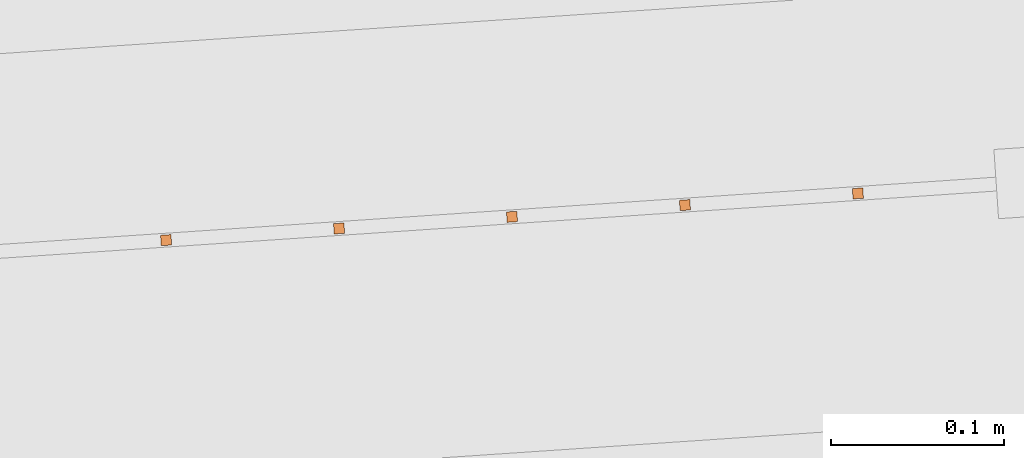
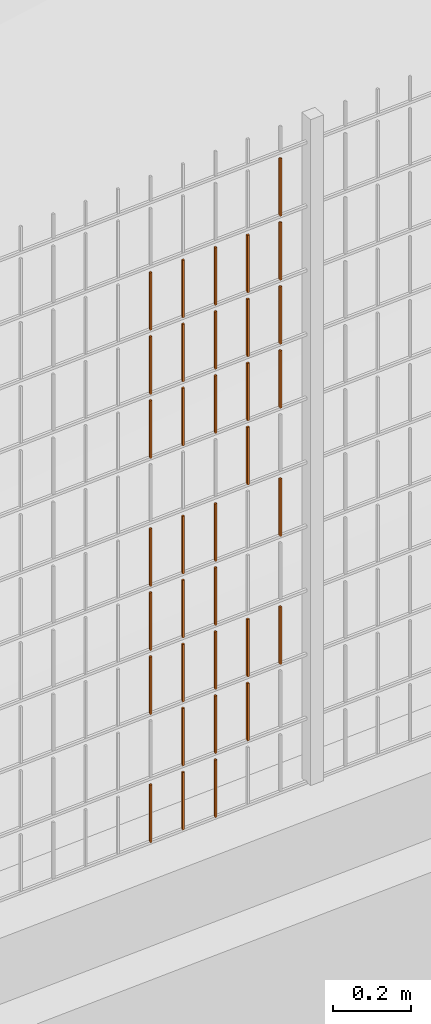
# One storey, part 146 of 1809: 35 proxies, 1 element without a shape of its own.
"""IFC2X3 building model written with IfcOpenShell, lengths in millimetres."""

from ifc_helpers import new_model, entity, si_unit, converted_unit, derived_unit, money_unit, direction, frame, origin_with_axes, place, context, subcontext, project, spatial, faceted_brep, source, transform, mapped, material, type_object, element, aggregate, save


model = new_model("IFC2X3")

# Units and contexts
model_context = context("Model", 3, precision=0.01, world=origin_with_axes(), true_north=direction((0.0, 1.0)))
body_context = subcontext(model_context, "Body", "Model", "MODEL_VIEW")
ifc_project = project(units=[si_unit("LENGTHUNIT", "METRE", prefix="MILLI"), si_unit("AREAUNIT", "SQUARE_METRE"), si_unit("VOLUMEUNIT", "CUBIC_METRE"), converted_unit("PLANEANGLEUNIT", "DEGREE", entity("IfcPlaneAngleMeasure", 0.0174532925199), si_unit("PLANEANGLEUNIT", "RADIAN"), dimensions=[0, 0, 0, 0, 0, 0, 0]), si_unit("SOLIDANGLEUNIT", "STERADIAN"), money_unit("EUR"), converted_unit("TIMEUNIT", "Year", entity("IfcTimeMeasure", 31556926.0), si_unit("TIMEUNIT", "SECOND"), dimensions=[0, 0, 1, 0, 0, 0, 0]), si_unit("MASSUNIT", "GRAM", prefix="KILO"), si_unit("THERMODYNAMICTEMPERATUREUNIT", "DEGREE_CELSIUS"), si_unit("LUMINOUSINTENSITYUNIT", "LUMEN"), si_unit("ENERGYUNIT", "JOULE", prefix="MEGA"), derived_unit("THERMALCONDUCTANCEUNIT", [(si_unit("POWERUNIT", "WATT"), 1), (si_unit("LENGTHUNIT", "METRE"), -1), (si_unit("THERMODYNAMICTEMPERATUREUNIT", "KELVIN"), -1)]), derived_unit("SPECIFICHEATCAPACITYUNIT", [(si_unit("ENERGYUNIT", "JOULE"), 1), (si_unit("MASSUNIT", "GRAM", prefix="KILO"), -1), (si_unit("THERMODYNAMICTEMPERATUREUNIT", "KELVIN"), -1)]), derived_unit("MASSDENSITYUNIT", [(si_unit("MASSUNIT", "GRAM", prefix="KILO"), 1), (si_unit("VOLUMEUNIT", "CUBIC_METRE"), -1)])], contexts=[model_context])

# Site, building, storey
site_placement = place(None, origin_with_axes())
site = spatial("IfcSite", under=ifc_project, at=site_placement, Name="Politse- ja Piirivalveameti ning Päästeameti ühishoone", CompositionType="ELEMENT")
building_placement = place(site_placement, origin_with_axes())
building = spatial("IfcBuilding", under=site, at=building_placement, Name="Politse- ja Piirivalveameti ning Päästeameti ühishoone", CompositionType="ELEMENT")
storey_placement = place(building_placement, origin_with_axes())
storey = spatial("IfcBuildingStorey", under=building, at=storey_placement, Name="Esimene korrus", CompositionType="ELEMENT", Elevation=0.0)

# Proxies
building_element_proxy_type_1 = type_object("IfcBuildingElementProxyType", Name="Railing Type", PredefinedType="NOTDEFINED")
proxy_1_placement = place(storey_placement, frame((89252.001212, -29183.4766571, 203.661247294), z_axis=(0.0, 0.0, 1.0), x_axis=(1.0, 0.0, 0.0)))
proxy_1 = element("IfcBuildingElementProxy", 1, at=proxy_1_placement, inside=storey, type_object=building_element_proxy_type_1, Name="PIIRDEAED")
ifc_material = material(Name="ET-03_Raud")
building_element_proxy_type_2 = type_object("IfcBuildingElementProxyType", Name="IfcBuildingElementProxy", PredefinedType="NOTDEFINED")
shared_shape_1 = source(origin_with_axes(), body_context, "Body", "Brep", [
    faceted_brep([(3.0, 3.0, -0.000752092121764), (-3.0, 3.0, -0.000752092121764), (-3.0, 3.0, 179.99926046), (3.0, 3.0, 179.99926046), (3.0, -3.0, 0.000752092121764), (-3.0, -3.0, 0.000752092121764), (-3.0, -3.0, 180.000764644), (3.0, -3.0, 180.000764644)], [[[0, 1, 2, 3]], [[0, 4, 5, 1]], [[1, 5, 6, 2]], [[3, 2, 6, 7]], [[4, 0, 3, 7]], [[5, 4, 7, 6]]]),
])
proxy_2_placement = place(proxy_1_placement, frame((-84733.609712, -23021.2103245, 1205.94348786), z_axis=(0.0, 0.0, 1.0), x_axis=(1.0, 0.0, 0.0)))
proxy_2 = element("IfcBuildingElementProxy", 2, at=proxy_2_placement, type_object=building_element_proxy_type_2, material=ifc_material, Name="BALUSTER - 001", context=body_context, shape_type="MappedRepresentation", body=[
    mapped(shared_shape_1, transform((0.0, 0.0, 0.0), x_axis=(-0.0673926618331, 0.997726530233, 0.0), y_axis=(-0.997726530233, -0.0673926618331, 0.0), z_axis=(0.0, 0.0, 1.0))),
])
shared_shape_2 = source(origin_with_axes(), body_context, "Body", "Brep", [
    faceted_brep([(3.0, 3.0, -0.000752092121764), (-3.0, 3.0, -0.000752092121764), (-3.0, 3.0, 179.99926046), (3.0, 3.0, 179.99926046), (3.0, -3.0, 0.000752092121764), (-3.0, -3.0, 0.000752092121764), (-3.0, -3.0, 180.000764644), (3.0, -3.0, 180.000764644)], [[[0, 1, 2, 3]], [[0, 4, 5, 1]], [[1, 5, 6, 2]], [[3, 2, 6, 7]], [[4, 0, 3, 7]], [[5, 4, 7, 6]]]),
])
proxy_3_placement = place(proxy_1_placement, frame((-84733.609712, -23021.2103245, 1405.94348786), z_axis=(0.0, 0.0, 1.0), x_axis=(1.0, 0.0, 0.0)))
proxy_3 = element("IfcBuildingElementProxy", 3, at=proxy_3_placement, type_object=building_element_proxy_type_2, material=ifc_material, Name="BALUSTER - 001", context=body_context, shape_type="MappedRepresentation", body=[
    mapped(shared_shape_2, transform((0.0, 0.0, 0.0), x_axis=(-0.0673926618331, 0.997726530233, 0.0), y_axis=(-0.997726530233, -0.0673926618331, 0.0), z_axis=(0.0, 0.0, 1.0))),
])
proxy_4_placement = place(proxy_1_placement, frame((-84733.609712, -23021.2103245, 1605.94348786), z_axis=(0.0, 0.0, 1.0), x_axis=(1.0, 0.0, 0.0)))
proxy_4 = element("IfcBuildingElementProxy", 4, at=proxy_4_placement, type_object=building_element_proxy_type_2, material=ifc_material, Name="BALUSTER - 001", context=body_context, shape_type="MappedRepresentation", body=[
    mapped(shared_shape_2, transform((0.0, 0.0, 0.0), x_axis=(-0.0673926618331, 0.997726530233, 0.0), y_axis=(-0.997726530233, -0.0673926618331, 0.0), z_axis=(0.0, 0.0, 1.0))),
])
shared_shape_3 = source(origin_with_axes(), body_context, "Body", "Brep", [
    faceted_brep([(3.0, 3.0, -0.000752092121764), (-3.0, 3.0, -0.000752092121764), (-3.0, 3.0, 179.99926046), (3.0, 3.0, 179.99926046), (3.0, -3.0, 0.000752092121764), (-3.0, -3.0, 0.000752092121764), (-3.0, -3.0, 180.000764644), (3.0, -3.0, 180.000764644)], [[[0, 1, 2, 3]], [[0, 4, 5, 1]], [[1, 5, 6, 2]], [[3, 2, 6, 7]], [[4, 0, 3, 7]], [[5, 4, 7, 6]]]),
])
proxy_5_placement = place(proxy_1_placement, frame((-84933.155018, -23034.6888569, 205.893348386), z_axis=(0.0, 0.0, 1.0), x_axis=(1.0, 0.0, 0.0)))
proxy_5 = element("IfcBuildingElementProxy", 5, at=proxy_5_placement, type_object=building_element_proxy_type_2, material=ifc_material, Name="BALUSTER - 001", context=body_context, shape_type="MappedRepresentation", body=[
    mapped(shared_shape_3, transform((0.0, 0.0, 0.0), x_axis=(-0.0673926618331, 0.997726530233, 0.0), y_axis=(-0.997726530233, -0.0673926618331, 0.0), z_axis=(0.0, 0.0, 1.0))),
])
proxy_6_placement = place(proxy_1_placement, frame((-84933.155018, -23034.6888569, 605.893348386), z_axis=(0.0, 0.0, 1.0), x_axis=(1.0, 0.0, 0.0)))
proxy_6 = element("IfcBuildingElementProxy", 6, at=proxy_6_placement, type_object=building_element_proxy_type_2, material=ifc_material, Name="BALUSTER - 001", context=body_context, shape_type="MappedRepresentation", body=[
    mapped(shared_shape_3, transform((0.0, 0.0, 0.0), x_axis=(-0.0673926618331, 0.997726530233, 0.0), y_axis=(-0.997726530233, -0.0673926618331, 0.0), z_axis=(0.0, 0.0, 1.0))),
])
shared_shape_4 = source(origin_with_axes(), body_context, "Body", "Brep", [
    faceted_brep([(3.0, 3.0, -0.000752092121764), (-3.0, 3.0, -0.000752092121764), (-3.0, 3.0, 179.99926046), (3.0, 3.0, 179.99926046), (3.0, -3.0, 0.000752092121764), (-3.0, -3.0, 0.000752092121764), (-3.0, -3.0, 180.000764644), (3.0, -3.0, 180.000764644)], [[[0, 1, 2, 3]], [[0, 4, 5, 1]], [[1, 5, 6, 2]], [[3, 2, 6, 7]], [[4, 0, 3, 7]], [[5, 4, 7, 6]]]),
])
proxy_7_placement = place(proxy_1_placement, frame((-85032.927671, -23041.4281231, 5.86827864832), z_axis=(0.0, 0.0, 1.0), x_axis=(1.0, 0.0, 0.0)))
proxy_7 = element("IfcBuildingElementProxy", 7, at=proxy_7_placement, type_object=building_element_proxy_type_2, material=ifc_material, Name="BALUSTER - 001", context=body_context, shape_type="MappedRepresentation", body=[
    mapped(shared_shape_4, transform((0.0, 0.0, 0.0), x_axis=(-0.0673926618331, 0.997726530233, 0.0), y_axis=(-0.997726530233, -0.0673926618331, 0.0), z_axis=(0.0, 0.0, 1.0))),
])
shared_shape_5 = source(origin_with_axes(), body_context, "Body", "Brep", [
    faceted_brep([(3.0, 3.0, -0.000752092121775), (-3.0, 3.0, -0.000752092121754), (-3.0, 3.0, 179.99926046), (3.0, 3.0, 179.99926046), (3.0, -3.0, 0.000752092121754), (-3.0, -3.0, 0.000752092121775), (-3.0, -3.0, 180.000764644), (3.0, -3.0, 180.000764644)], [[[0, 1, 2, 3]], [[0, 4, 5, 1]], [[1, 5, 6, 2]], [[3, 2, 6, 7]], [[4, 0, 3, 7]], [[5, 4, 7, 6]]]),
])
proxy_8_placement = place(proxy_1_placement, frame((-84833.382365, -23027.9495907, 405.918418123), z_axis=(0.0, 0.0, 1.0), x_axis=(1.0, 0.0, 0.0)))
proxy_8 = element("IfcBuildingElementProxy", 8, at=proxy_8_placement, type_object=building_element_proxy_type_2, material=ifc_material, Name="BALUSTER - 001", context=body_context, shape_type="MappedRepresentation", body=[
    mapped(shared_shape_5, transform((0.0, 0.0, 0.0), x_axis=(-0.0673926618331, 0.997726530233, 0.0), y_axis=(-0.997726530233, -0.0673926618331, 0.0), z_axis=(0.0, 0.0, 1.0))),
])
shared_shape_6 = source(origin_with_axes(), body_context, "Body", "Brep", [
    faceted_brep([(3.0, 3.0, -0.000752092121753), (-3.0, 3.0, -0.000752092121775), (-3.0, 3.0, 179.99926046), (3.0, 3.0, 179.99926046), (3.0, -3.0, 0.000752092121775), (-3.0, -3.0, 0.000752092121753), (-3.0, -3.0, 180.000764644), (3.0, -3.0, 180.000764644)], [[[0, 1, 2, 3]], [[0, 4, 5, 1]], [[1, 5, 6, 2]], [[3, 2, 6, 7]], [[4, 0, 3, 7]], [[5, 4, 7, 6]]]),
])
proxy_9_placement = place(proxy_1_placement, frame((-85132.7003241, -23048.1673893, 5.84320891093), z_axis=(0.0, 0.0, 1.0), x_axis=(1.0, 0.0, 0.0)))
proxy_9 = element("IfcBuildingElementProxy", 9, at=proxy_9_placement, type_object=building_element_proxy_type_2, material=ifc_material, Name="BALUSTER - 001", context=body_context, shape_type="MappedRepresentation", body=[
    mapped(shared_shape_6, transform((0.0, 0.0, 0.0), x_axis=(-0.0673926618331, 0.997726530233, 0.0), y_axis=(-0.997726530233, -0.0673926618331, 0.0), z_axis=(0.0, 0.0, 1.0))),
])
shared_shape_7 = source(origin_with_axes(), body_context, "Body", "Brep", [
    faceted_brep([(3.0, 3.0, -0.000752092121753), (-3.0, 3.0, -0.000752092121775), (-3.0, 3.0, 179.99926046), (3.0, 3.0, 179.99926046), (3.0, -3.0, 0.000752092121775), (-3.0, -3.0, 0.000752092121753), (-3.0, -3.0, 180.000764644), (3.0, -3.0, 180.000764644)], [[[0, 1, 2, 3]], [[0, 4, 5, 1]], [[1, 5, 6, 2]], [[3, 2, 6, 7]], [[4, 0, 3, 7]], [[5, 4, 7, 6]]]),
])
proxy_10_placement = place(proxy_1_placement, frame((-84733.609712, -23021.2103245, 805.943487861), z_axis=(0.0, 0.0, 1.0), x_axis=(1.0, 0.0, 0.0)))
proxy_10 = element("IfcBuildingElementProxy", 10, at=proxy_10_placement, type_object=building_element_proxy_type_2, material=ifc_material, Name="BALUSTER - 001", context=body_context, shape_type="MappedRepresentation", body=[
    mapped(shared_shape_7, transform((0.0, 0.0, 0.0), x_axis=(-0.0673926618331, 0.997726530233, 0.0), y_axis=(-0.997726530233, -0.0673926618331, 0.0), z_axis=(0.0, 0.0, 1.0))),
])
shared_shape_8 = source(origin_with_axes(), body_context, "Body", "Brep", [
    faceted_brep([(3.0, 3.0, -0.000752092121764), (-3.0, 3.0, -0.000752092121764), (-3.0, 3.0, 179.99926046), (3.0, 3.0, 179.99926046), (3.0, -3.0, 0.000752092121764), (-3.0, -3.0, 0.000752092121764), (-3.0, -3.0, 180.000764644), (3.0, -3.0, 180.000764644)], [[[0, 1, 2, 3]], [[0, 4, 5, 1]], [[1, 5, 6, 2]], [[3, 2, 6, 7]], [[4, 0, 3, 7]], [[5, 4, 7, 6]]]),
])
proxy_11_placement = place(proxy_1_placement, frame((-84933.155018, -23034.6888569, 405.893348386), z_axis=(0.0, 0.0, 1.0), x_axis=(1.0, 0.0, 0.0)))
proxy_11 = element("IfcBuildingElementProxy", 11, at=proxy_11_placement, type_object=building_element_proxy_type_2, material=ifc_material, Name="BALUSTER - 001", context=body_context, shape_type="MappedRepresentation", body=[
    mapped(shared_shape_8, transform((0.0, 0.0, 0.0), x_axis=(-0.0673926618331, 0.997726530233, 0.0), y_axis=(-0.997726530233, -0.0673926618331, 0.0), z_axis=(0.0, 0.0, 1.0))),
])
shared_shape_9 = source(origin_with_axes(), body_context, "Body", "Brep", [
    faceted_brep([(3.0, 3.0, -0.000752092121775), (-3.0, 3.0, -0.000752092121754), (-3.0, 3.0, 179.99926046), (3.0, 3.0, 179.99926046), (3.0, -3.0, 0.000752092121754), (-3.0, -3.0, 0.000752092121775), (-3.0, -3.0, 180.000764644), (3.0, -3.0, 180.000764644)], [[[0, 1, 2, 3]], [[0, 4, 5, 1]], [[1, 5, 6, 2]], [[3, 2, 6, 7]], [[4, 0, 3, 7]], [[5, 4, 7, 6]]]),
])
proxy_12_placement = place(proxy_1_placement, frame((-84833.382365, -23027.9495907, 205.918418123), z_axis=(0.0, 0.0, 1.0), x_axis=(1.0, 0.0, 0.0)))
proxy_12 = element("IfcBuildingElementProxy", 12, at=proxy_12_placement, type_object=building_element_proxy_type_2, material=ifc_material, Name="BALUSTER - 001", context=body_context, shape_type="MappedRepresentation", body=[
    mapped(shared_shape_9, transform((0.0, 0.0, 0.0), x_axis=(-0.0673926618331, 0.997726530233, 0.0), y_axis=(-0.997726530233, -0.0673926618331, 0.0), z_axis=(0.0, 0.0, 1.0))),
])
shared_shape_10 = source(origin_with_axes(), body_context, "Body", "Brep", [
    faceted_brep([(3.0, 3.0, -0.000752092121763), (-3.0, 3.0, -0.000752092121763), (-3.0, 3.0, 179.99926046), (3.0, 3.0, 179.99926046), (3.0, -3.0, 0.000752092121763), (-3.0, -3.0, 0.000752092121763), (-3.0, -3.0, 180.000764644), (3.0, -3.0, 180.000764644)], [[[0, 1, 2, 3]], [[0, 4, 5, 1]], [[1, 5, 6, 2]], [[3, 2, 6, 7]], [[4, 0, 3, 7]], [[5, 4, 7, 6]]]),
])
proxy_13_placement = place(proxy_1_placement, frame((-85032.927671, -23041.4281231, 405.868278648), z_axis=(0.0, 0.0, 1.0), x_axis=(1.0, 0.0, 0.0)))
proxy_13 = element("IfcBuildingElementProxy", 13, at=proxy_13_placement, type_object=building_element_proxy_type_2, material=ifc_material, Name="BALUSTER - 001", context=body_context, shape_type="MappedRepresentation", body=[
    mapped(shared_shape_10, transform((0.0, 0.0, 0.0), x_axis=(-0.0673926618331, 0.997726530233, 0.0), y_axis=(-0.997726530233, -0.0673926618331, 0.0), z_axis=(0.0, 0.0, 1.0))),
])
shared_shape_11 = source(origin_with_axes(), body_context, "Body", "Brep", [
    faceted_brep([(3.0, 3.0, -0.000752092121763), (-3.0, 3.0, -0.000752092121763), (-3.0, 3.0, 179.99926046), (3.0, 3.0, 179.99926046), (3.0, -3.0, 0.000752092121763), (-3.0, -3.0, 0.000752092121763), (-3.0, -3.0, 180.000764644), (3.0, -3.0, 180.000764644)], [[[0, 1, 2, 3]], [[0, 4, 5, 1]], [[1, 5, 6, 2]], [[3, 2, 6, 7]], [[4, 0, 3, 7]], [[5, 4, 7, 6]]]),
])
proxy_14_placement = place(proxy_1_placement, frame((-84933.155018, -23034.6888569, 805.893348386), z_axis=(0.0, 0.0, 1.0), x_axis=(1.0, 0.0, 0.0)))
proxy_14 = element("IfcBuildingElementProxy", 14, at=proxy_14_placement, type_object=building_element_proxy_type_2, material=ifc_material, Name="BALUSTER - 001", context=body_context, shape_type="MappedRepresentation", body=[
    mapped(shared_shape_11, transform((0.0, 0.0, 0.0), x_axis=(-0.0673926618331, 0.997726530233, 0.0), y_axis=(-0.997726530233, -0.0673926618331, 0.0), z_axis=(0.0, 0.0, 1.0))),
])
shared_shape_12 = source(origin_with_axes(), body_context, "Body", "Brep", [
    faceted_brep([(3.0, 3.0, -0.000752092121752), (-3.0, 3.0, -0.000752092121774), (-3.0, 3.0, 179.99926046), (3.0, 3.0, 179.99926046), (3.0, -3.0, 0.000752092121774), (-3.0, -3.0, 0.000752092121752), (-3.0, -3.0, 180.000764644), (3.0, -3.0, 180.000764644)], [[[0, 1, 2, 3]], [[0, 4, 5, 1]], [[1, 5, 6, 2]], [[3, 2, 6, 7]], [[4, 0, 3, 7]], [[5, 4, 7, 6]]]),
])
proxy_15_placement = place(proxy_1_placement, frame((-84833.382365, -23027.9495907, 1205.91841812), z_axis=(0.0, 0.0, 1.0), x_axis=(1.0, 0.0, 0.0)))
proxy_15 = element("IfcBuildingElementProxy", 15, at=proxy_15_placement, type_object=building_element_proxy_type_2, material=ifc_material, Name="BALUSTER - 001", context=body_context, shape_type="MappedRepresentation", body=[
    mapped(shared_shape_12, transform((0.0, 0.0, 0.0), x_axis=(-0.0673926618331, 0.997726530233, 0.0), y_axis=(-0.997726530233, -0.0673926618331, 0.0), z_axis=(0.0, 0.0, 1.0))),
])
proxy_16_placement = place(proxy_1_placement, frame((-85132.7003241, -23048.1673893, 1205.84320891), z_axis=(0.0, 0.0, 1.0), x_axis=(1.0, 0.0, 0.0)))
proxy_16 = element("IfcBuildingElementProxy", 16, at=proxy_16_placement, type_object=building_element_proxy_type_2, material=ifc_material, Name="BALUSTER - 001", context=body_context, shape_type="MappedRepresentation", body=[
    mapped(shared_shape_12, transform((0.0, 0.0, 0.0), x_axis=(-0.0673926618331, 0.997726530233, 0.0), y_axis=(-0.997726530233, -0.0673926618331, 0.0), z_axis=(0.0, 0.0, 1.0))),
])
shared_shape_13 = source(origin_with_axes(), body_context, "Body", "Brep", [
    faceted_brep([(3.0, 3.0, -0.000752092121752), (-3.0, 3.0, -0.000752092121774), (-3.0, 3.0, 179.99926046), (3.0, 3.0, 179.99926046), (3.0, -3.0, 0.000752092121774), (-3.0, -3.0, 0.000752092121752), (-3.0, -3.0, 180.000764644), (3.0, -3.0, 180.000764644)], [[[0, 1, 2, 3]], [[0, 4, 5, 1]], [[1, 5, 6, 2]], [[3, 2, 6, 7]], [[4, 0, 3, 7]], [[5, 4, 7, 6]]]),
])
proxy_17_placement = place(proxy_1_placement, frame((-84933.155018, -23034.6888569, 1205.89334839), z_axis=(0.0, 0.0, 1.0), x_axis=(1.0, 0.0, 0.0)))
proxy_17 = element("IfcBuildingElementProxy", 17, at=proxy_17_placement, type_object=building_element_proxy_type_2, material=ifc_material, Name="BALUSTER - 001", context=body_context, shape_type="MappedRepresentation", body=[
    mapped(shared_shape_13, transform((0.0, 0.0, 0.0), x_axis=(-0.0673926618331, 0.997726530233, 0.0), y_axis=(-0.997726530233, -0.0673926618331, 0.0), z_axis=(0.0, 0.0, 1.0))),
])
shared_shape_14 = source(origin_with_axes(), body_context, "Body", "Brep", [
    faceted_brep([(3.0, 3.0, -0.000752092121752), (-3.0, 3.0, -0.000752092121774), (-3.0, 3.0, 179.99926046), (3.0, 3.0, 179.99926046), (3.0, -3.0, 0.000752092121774), (-3.0, -3.0, 0.000752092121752), (-3.0, -3.0, 180.000764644), (3.0, -3.0, 180.000764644)], [[[0, 1, 2, 3]], [[0, 4, 5, 1]], [[1, 5, 6, 2]], [[3, 2, 6, 7]], [[4, 0, 3, 7]], [[5, 4, 7, 6]]]),
])
proxy_18_placement = place(proxy_1_placement, frame((-85032.927671, -23041.4281231, 1205.86827865), z_axis=(0.0, 0.0, 1.0), x_axis=(1.0, 0.0, 0.0)))
proxy_18 = element("IfcBuildingElementProxy", 18, at=proxy_18_placement, type_object=building_element_proxy_type_2, material=ifc_material, Name="BALUSTER - 001", context=body_context, shape_type="MappedRepresentation", body=[
    mapped(shared_shape_14, transform((0.0, 0.0, 0.0), x_axis=(-0.0673926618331, 0.997726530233, 0.0), y_axis=(-0.997726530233, -0.0673926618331, 0.0), z_axis=(0.0, 0.0, 1.0))),
])
shared_shape_15 = source(origin_with_axes(), body_context, "Body", "Brep", [
    faceted_brep([(3.0, 3.0, -0.000752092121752), (-3.0, 3.0, -0.000752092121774), (-3.0, 3.0, 179.99926046), (3.0, 3.0, 179.99926046), (3.0, -3.0, 0.000752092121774), (-3.0, -3.0, 0.000752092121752), (-3.0, -3.0, 180.000764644), (3.0, -3.0, 180.000764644)], [[[0, 1, 2, 3]], [[0, 4, 5, 1]], [[1, 5, 6, 2]], [[3, 2, 6, 7]], [[4, 0, 3, 7]], [[5, 4, 7, 6]]]),
])
proxy_19_placement = place(proxy_1_placement, frame((-85132.7003241, -23048.1673893, 805.843208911), z_axis=(0.0, 0.0, 1.0), x_axis=(1.0, 0.0, 0.0)))
proxy_19 = element("IfcBuildingElementProxy", 19, at=proxy_19_placement, type_object=building_element_proxy_type_2, material=ifc_material, Name="BALUSTER - 001", context=body_context, shape_type="MappedRepresentation", body=[
    mapped(shared_shape_15, transform((0.0, 0.0, 0.0), x_axis=(-0.0673926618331, 0.997726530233, 0.0), y_axis=(-0.997726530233, -0.0673926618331, 0.0), z_axis=(0.0, 0.0, 1.0))),
])
shared_shape_16 = source(origin_with_axes(), body_context, "Body", "Brep", [
    faceted_brep([(3.0, 3.0, -0.000752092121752), (-3.0, 3.0, -0.000752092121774), (-3.0, 3.0, 179.99926046), (3.0, 3.0, 179.99926046), (3.0, -3.0, 0.000752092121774), (-3.0, -3.0, 0.000752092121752), (-3.0, -3.0, 180.000764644), (3.0, -3.0, 180.000764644)], [[[0, 1, 2, 3]], [[0, 4, 5, 1]], [[1, 5, 6, 2]], [[3, 2, 6, 7]], [[4, 0, 3, 7]], [[5, 4, 7, 6]]]),
])
proxy_20_placement = place(proxy_1_placement, frame((-84833.382365, -23027.9495907, 1405.91841812), z_axis=(0.0, 0.0, 1.0), x_axis=(1.0, 0.0, 0.0)))
proxy_20 = element("IfcBuildingElementProxy", 20, at=proxy_20_placement, type_object=building_element_proxy_type_2, material=ifc_material, Name="BALUSTER - 001", context=body_context, shape_type="MappedRepresentation", body=[
    mapped(shared_shape_16, transform((0.0, 0.0, 0.0), x_axis=(-0.0673926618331, 0.997726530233, 0.0), y_axis=(-0.997726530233, -0.0673926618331, 0.0), z_axis=(0.0, 0.0, 1.0))),
])
proxy_21_placement = place(proxy_1_placement, frame((-85132.7003241, -23048.1673893, 1405.84320891), z_axis=(0.0, 0.0, 1.0), x_axis=(1.0, 0.0, 0.0)))
proxy_21 = element("IfcBuildingElementProxy", 21, at=proxy_21_placement, type_object=building_element_proxy_type_2, material=ifc_material, Name="BALUSTER - 001", context=body_context, shape_type="MappedRepresentation", body=[
    mapped(shared_shape_16, transform((0.0, 0.0, 0.0), x_axis=(-0.0673926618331, 0.997726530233, 0.0), y_axis=(-0.997726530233, -0.0673926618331, 0.0), z_axis=(0.0, 0.0, 1.0))),
])
proxy_22_placement = place(proxy_1_placement, frame((-84833.382365, -23027.9495907, 1605.91841812), z_axis=(0.0, 0.0, 1.0), x_axis=(1.0, 0.0, 0.0)))
proxy_22 = element("IfcBuildingElementProxy", 22, at=proxy_22_placement, type_object=building_element_proxy_type_2, material=ifc_material, Name="BALUSTER - 001", context=body_context, shape_type="MappedRepresentation", body=[
    mapped(shared_shape_16, transform((0.0, 0.0, 0.0), x_axis=(-0.0673926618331, 0.997726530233, 0.0), y_axis=(-0.997726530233, -0.0673926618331, 0.0), z_axis=(0.0, 0.0, 1.0))),
])
proxy_23_placement = place(proxy_1_placement, frame((-85132.7003241, -23048.1673893, 1605.84320891), z_axis=(0.0, 0.0, 1.0), x_axis=(1.0, 0.0, 0.0)))
proxy_23 = element("IfcBuildingElementProxy", 23, at=proxy_23_placement, type_object=building_element_proxy_type_2, material=ifc_material, Name="BALUSTER - 001", context=body_context, shape_type="MappedRepresentation", body=[
    mapped(shared_shape_16, transform((0.0, 0.0, 0.0), x_axis=(-0.0673926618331, 0.997726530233, 0.0), y_axis=(-0.997726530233, -0.0673926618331, 0.0), z_axis=(0.0, 0.0, 1.0))),
])
shared_shape_17 = source(origin_with_axes(), body_context, "Body", "Brep", [
    faceted_brep([(3.0, 3.0, -0.000752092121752), (-3.0, 3.0, -0.000752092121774), (-3.0, 3.0, 179.99926046), (3.0, 3.0, 179.99926046), (3.0, -3.0, 0.000752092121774), (-3.0, -3.0, 0.000752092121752), (-3.0, -3.0, 180.000764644), (3.0, -3.0, 180.000764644)], [[[0, 1, 2, 3]], [[0, 4, 5, 1]], [[1, 5, 6, 2]], [[3, 2, 6, 7]], [[4, 0, 3, 7]], [[5, 4, 7, 6]]]),
])
proxy_24_placement = place(proxy_1_placement, frame((-84933.155018, -23034.6888569, 1405.89334839), z_axis=(0.0, 0.0, 1.0), x_axis=(1.0, 0.0, 0.0)))
proxy_24 = element("IfcBuildingElementProxy", 24, at=proxy_24_placement, type_object=building_element_proxy_type_2, material=ifc_material, Name="BALUSTER - 001", context=body_context, shape_type="MappedRepresentation", body=[
    mapped(shared_shape_17, transform((0.0, 0.0, 0.0), x_axis=(-0.0673926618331, 0.997726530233, 0.0), y_axis=(-0.997726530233, -0.0673926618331, 0.0), z_axis=(0.0, 0.0, 1.0))),
])
proxy_25_placement = place(proxy_1_placement, frame((-84933.155018, -23034.6888569, 1605.89334839), z_axis=(0.0, 0.0, 1.0), x_axis=(1.0, 0.0, 0.0)))
proxy_25 = element("IfcBuildingElementProxy", 25, at=proxy_25_placement, type_object=building_element_proxy_type_2, material=ifc_material, Name="BALUSTER - 001", context=body_context, shape_type="MappedRepresentation", body=[
    mapped(shared_shape_17, transform((0.0, 0.0, 0.0), x_axis=(-0.0673926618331, 0.997726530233, 0.0), y_axis=(-0.997726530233, -0.0673926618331, 0.0), z_axis=(0.0, 0.0, 1.0))),
])
shared_shape_18 = source(origin_with_axes(), body_context, "Body", "Brep", [
    faceted_brep([(3.0, 3.0, -0.000752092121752), (-3.0, 3.0, -0.000752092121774), (-3.0, 3.0, 179.99926046), (3.0, 3.0, 179.99926046), (3.0, -3.0, 0.000752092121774), (-3.0, -3.0, 0.000752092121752), (-3.0, -3.0, 180.000764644), (3.0, -3.0, 180.000764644)], [[[0, 1, 2, 3]], [[0, 4, 5, 1]], [[1, 5, 6, 2]], [[3, 2, 6, 7]], [[4, 0, 3, 7]], [[5, 4, 7, 6]]]),
])
proxy_26_placement = place(proxy_1_placement, frame((-85032.927671, -23041.4281231, 1405.86827865), z_axis=(0.0, 0.0, 1.0), x_axis=(1.0, 0.0, 0.0)))
proxy_26 = element("IfcBuildingElementProxy", 26, at=proxy_26_placement, type_object=building_element_proxy_type_2, material=ifc_material, Name="BALUSTER - 001", context=body_context, shape_type="MappedRepresentation", body=[
    mapped(shared_shape_18, transform((0.0, 0.0, 0.0), x_axis=(-0.0673926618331, 0.997726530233, 0.0), y_axis=(-0.997726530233, -0.0673926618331, 0.0), z_axis=(0.0, 0.0, 1.0))),
])
proxy_27_placement = place(proxy_1_placement, frame((-85032.927671, -23041.4281231, 1605.86827865), z_axis=(0.0, 0.0, 1.0), x_axis=(1.0, 0.0, 0.0)))
proxy_27 = element("IfcBuildingElementProxy", 27, at=proxy_27_placement, type_object=building_element_proxy_type_2, material=ifc_material, Name="BALUSTER - 001", context=body_context, shape_type="MappedRepresentation", body=[
    mapped(shared_shape_18, transform((0.0, 0.0, 0.0), x_axis=(-0.0673926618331, 0.997726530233, 0.0), y_axis=(-0.997726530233, -0.0673926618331, 0.0), z_axis=(0.0, 0.0, 1.0))),
])
shared_shape_19 = source(origin_with_axes(), body_context, "Body", "Brep", [
    faceted_brep([(3.0, 3.0, -0.000752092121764), (-3.0, 3.0, -0.000752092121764), (-3.0, 3.0, 179.99926046), (3.0, 3.0, 179.99926046), (3.0, -3.0, 0.000752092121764), (-3.0, -3.0, 0.000752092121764), (-3.0, -3.0, 180.000764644), (3.0, -3.0, 180.000764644)], [[[0, 1, 2, 3]], [[0, 4, 5, 1]], [[1, 5, 6, 2]], [[3, 2, 6, 7]], [[4, 0, 3, 7]], [[5, 4, 7, 6]]]),
])
proxy_28_placement = place(proxy_1_placement, frame((-84933.155018, -23034.6888569, 5.89334838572), z_axis=(0.0, 0.0, 1.0), x_axis=(1.0, 0.0, 0.0)))
proxy_28 = element("IfcBuildingElementProxy", 28, at=proxy_28_placement, type_object=building_element_proxy_type_2, material=ifc_material, Name="BALUSTER - 001", context=body_context, shape_type="MappedRepresentation", body=[
    mapped(shared_shape_19, transform((0.0, 0.0, 0.0), x_axis=(-0.0673926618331, 0.997726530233, 0.0), y_axis=(-0.997726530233, -0.0673926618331, 0.0), z_axis=(0.0, 0.0, 1.0))),
])
shared_shape_20 = source(origin_with_axes(), body_context, "Body", "Brep", [
    faceted_brep([(3.0, 3.0, -0.000752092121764), (-3.0, 3.0, -0.000752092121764), (-3.0, 3.0, 179.99926046), (3.0, 3.0, 179.99926046), (3.0, -3.0, 0.000752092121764), (-3.0, -3.0, 0.000752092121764), (-3.0, -3.0, 180.000764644), (3.0, -3.0, 180.000764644)], [[[0, 1, 2, 3]], [[0, 4, 5, 1]], [[1, 5, 6, 2]], [[3, 2, 6, 7]], [[4, 0, 3, 7]], [[5, 4, 7, 6]]]),
])
proxy_29_placement = place(proxy_1_placement, frame((-85032.927671, -23041.4281231, 205.868278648), z_axis=(0.0, 0.0, 1.0), x_axis=(1.0, 0.0, 0.0)))
proxy_29 = element("IfcBuildingElementProxy", 29, at=proxy_29_placement, type_object=building_element_proxy_type_2, material=ifc_material, Name="BALUSTER - 001", context=body_context, shape_type="MappedRepresentation", body=[
    mapped(shared_shape_20, transform((0.0, 0.0, 0.0), x_axis=(-0.0673926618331, 0.997726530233, 0.0), y_axis=(-0.997726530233, -0.0673926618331, 0.0), z_axis=(0.0, 0.0, 1.0))),
])
shared_shape_21 = source(origin_with_axes(), body_context, "Body", "Brep", [
    faceted_brep([(3.0, 3.0, -0.000752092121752), (-3.0, 3.0, -0.000752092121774), (-3.0, 3.0, 179.99926046), (3.0, 3.0, 179.99926046), (3.0, -3.0, 0.000752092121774), (-3.0, -3.0, 0.000752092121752), (-3.0, -3.0, 180.000764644), (3.0, -3.0, 180.000764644)], [[[0, 1, 2, 3]], [[0, 4, 5, 1]], [[1, 5, 6, 2]], [[3, 2, 6, 7]], [[4, 0, 3, 7]], [[5, 4, 7, 6]]]),
])
proxy_30_placement = place(proxy_1_placement, frame((-84733.609712, -23021.2103245, 405.943487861), z_axis=(0.0, 0.0, 1.0), x_axis=(1.0, 0.0, 0.0)))
proxy_30 = element("IfcBuildingElementProxy", 30, at=proxy_30_placement, type_object=building_element_proxy_type_2, material=ifc_material, Name="BALUSTER - 001", context=body_context, shape_type="MappedRepresentation", body=[
    mapped(shared_shape_21, transform((0.0, 0.0, 0.0), x_axis=(-0.0673926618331, 0.997726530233, 0.0), y_axis=(-0.997726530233, -0.0673926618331, 0.0), z_axis=(0.0, 0.0, 1.0))),
])
shared_shape_22 = source(origin_with_axes(), body_context, "Body", "Brep", [
    faceted_brep([(3.0, 3.0, -0.000752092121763), (-3.0, 3.0, -0.000752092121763), (-3.0, 3.0, 179.99926046), (3.0, 3.0, 179.99926046), (3.0, -3.0, 0.000752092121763), (-3.0, -3.0, 0.000752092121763), (-3.0, -3.0, 180.000764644), (3.0, -3.0, 180.000764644)], [[[0, 1, 2, 3]], [[0, 4, 5, 1]], [[1, 5, 6, 2]], [[3, 2, 6, 7]], [[4, 0, 3, 7]], [[5, 4, 7, 6]]]),
])
proxy_31_placement = place(proxy_1_placement, frame((-85032.927671, -23041.4281231, 605.868278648), z_axis=(0.0, 0.0, 1.0), x_axis=(1.0, 0.0, 0.0)))
proxy_31 = element("IfcBuildingElementProxy", 31, at=proxy_31_placement, type_object=building_element_proxy_type_2, material=ifc_material, Name="BALUSTER - 001", context=body_context, shape_type="MappedRepresentation", body=[
    mapped(shared_shape_22, transform((0.0, 0.0, 0.0), x_axis=(-0.0673926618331, 0.997726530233, 0.0), y_axis=(-0.997726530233, -0.0673926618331, 0.0), z_axis=(0.0, 0.0, 1.0))),
])
shared_shape_23 = source(origin_with_axes(), body_context, "Body", "Brep", [
    faceted_brep([(3.0, 3.0, -0.000752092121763), (-3.0, 3.0, -0.000752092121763), (-3.0, 3.0, 179.99926046), (3.0, 3.0, 179.99926046), (3.0, -3.0, 0.000752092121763), (-3.0, -3.0, 0.000752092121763), (-3.0, -3.0, 180.000764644), (3.0, -3.0, 180.000764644)], [[[0, 1, 2, 3]], [[0, 4, 5, 1]], [[1, 5, 6, 2]], [[3, 2, 6, 7]], [[4, 0, 3, 7]], [[5, 4, 7, 6]]]),
])
proxy_32_placement = place(proxy_1_placement, frame((-84733.609712, -23021.2103245, 1805.94348786), z_axis=(0.0, 0.0, 1.0), x_axis=(1.0, 0.0, 0.0)))
proxy_32 = element("IfcBuildingElementProxy", 32, at=proxy_32_placement, type_object=building_element_proxy_type_2, material=ifc_material, Name="BALUSTER - 001", context=body_context, shape_type="MappedRepresentation", body=[
    mapped(shared_shape_23, transform((0.0, 0.0, 0.0), x_axis=(-0.0673926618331, 0.997726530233, 0.0), y_axis=(-0.997726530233, -0.0673926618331, 0.0), z_axis=(0.0, 0.0, 1.0))),
])
shared_shape_24 = source(origin_with_axes(), body_context, "Body", "Brep", [
    faceted_brep([(3.0, 3.0, -0.000752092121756), (-3.0, 3.0, -0.000752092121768), (-3.00000000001, 3.0, 179.99926046), (2.99999999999, 3.0, 179.99926046), (3.0, -3.0, 0.000752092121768), (-3.0, -3.0, 0.000752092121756), (-3.00000000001, -3.0, 180.000764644), (2.99999999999, -3.0, 180.000764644)], [[[0, 1, 2, 3]], [[0, 4, 5, 1]], [[1, 5, 6, 2]], [[3, 2, 6, 7]], [[4, 0, 3, 7]], [[5, 4, 7, 6]]]),
])
proxy_33_placement = place(proxy_1_placement, frame((-84833.382365, -23027.9495907, 1005.91841812), z_axis=(0.0, 0.0, 1.0), x_axis=(1.0, 0.0, 0.0)))
proxy_33 = element("IfcBuildingElementProxy", 33, at=proxy_33_placement, type_object=building_element_proxy_type_2, material=ifc_material, Name="BALUSTER - 001", context=body_context, shape_type="MappedRepresentation", body=[
    mapped(shared_shape_24, transform((0.0, 0.0, 0.0), x_axis=(-0.0673926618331, 0.997726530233, 0.0), y_axis=(-0.997726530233, -0.0673926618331, 0.0), z_axis=(0.0, 0.0, 1.0))),
])
shared_shape_25 = source(origin_with_axes(), body_context, "Body", "Brep", [
    faceted_brep([(3.0, 3.0, -0.000752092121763), (-3.0, 3.0, -0.000752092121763), (-3.0, 3.0, 179.99926046), (3.0, 3.0, 179.99926046), (3.0, -3.0, 0.000752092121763), (-3.0, -3.0, 0.000752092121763), (-3.0, -3.0, 180.000764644), (3.0, -3.0, 180.000764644)], [[[0, 1, 2, 3]], [[0, 4, 5, 1]], [[1, 5, 6, 2]], [[3, 2, 6, 7]], [[4, 0, 3, 7]], [[5, 4, 7, 6]]]),
])
proxy_34_placement = place(proxy_1_placement, frame((-85032.927671, -23041.4281231, 805.868278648), z_axis=(0.0, 0.0, 1.0), x_axis=(1.0, 0.0, 0.0)))
proxy_34 = element("IfcBuildingElementProxy", 34, at=proxy_34_placement, type_object=building_element_proxy_type_2, material=ifc_material, Name="BALUSTER - 001", context=body_context, shape_type="MappedRepresentation", body=[
    mapped(shared_shape_25, transform((0.0, 0.0, 0.0), x_axis=(-0.0673926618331, 0.997726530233, 0.0), y_axis=(-0.997726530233, -0.0673926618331, 0.0), z_axis=(0.0, 0.0, 1.0))),
])
shared_shape_26 = source(origin_with_axes(), body_context, "Body", "Brep", [
    faceted_brep([(3.0, 3.0, -0.000752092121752), (-3.0, 3.0, -0.000752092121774), (-3.0, 3.0, 179.99926046), (3.0, 3.0, 179.99926046), (3.0, -3.0, 0.000752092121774), (-3.0, -3.0, 0.000752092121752), (-3.0, -3.0, 180.000764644), (3.0, -3.0, 180.000764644)], [[[0, 1, 2, 3]], [[0, 4, 5, 1]], [[1, 5, 6, 2]], [[3, 2, 6, 7]], [[4, 0, 3, 7]], [[5, 4, 7, 6]]]),
])
proxy_35_placement = place(proxy_1_placement, frame((-85132.7003241, -23048.1673893, 405.843208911), z_axis=(0.0, 0.0, 1.0), x_axis=(1.0, 0.0, 0.0)))
proxy_35 = element("IfcBuildingElementProxy", 35, at=proxy_35_placement, type_object=building_element_proxy_type_2, material=ifc_material, Name="BALUSTER - 001", context=body_context, shape_type="MappedRepresentation", body=[
    mapped(shared_shape_26, transform((0.0, 0.0, 0.0), x_axis=(-0.0673926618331, 0.997726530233, 0.0), y_axis=(-0.997726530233, -0.0673926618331, 0.0), z_axis=(0.0, 0.0, 1.0))),
])
proxy_36_placement = place(proxy_1_placement, frame((-85132.7003241, -23048.1673893, 605.843208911), z_axis=(0.0, 0.0, 1.0), x_axis=(1.0, 0.0, 0.0)))
proxy_36 = element("IfcBuildingElementProxy", 36, at=proxy_36_placement, type_object=building_element_proxy_type_2, material=ifc_material, Name="BALUSTER - 001", context=body_context, shape_type="MappedRepresentation", body=[
    mapped(shared_shape_26, transform((0.0, 0.0, 0.0), x_axis=(-0.0673926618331, 0.997726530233, 0.0), y_axis=(-0.997726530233, -0.0673926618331, 0.0), z_axis=(0.0, 0.0, 1.0))),
])
aggregate(proxy_1, [proxy_28, proxy_7, proxy_9, proxy_12, proxy_5, proxy_29, proxy_30, proxy_8, proxy_11, proxy_13, proxy_35, proxy_6, proxy_31, proxy_36, proxy_10, proxy_14, proxy_34, proxy_19, proxy_33, proxy_2, proxy_15, proxy_17, proxy_18, proxy_16, proxy_3, proxy_20, proxy_24, proxy_26, proxy_21, proxy_4, proxy_22, proxy_25, proxy_27, proxy_23, proxy_32])

save(model, "model.ifc")
